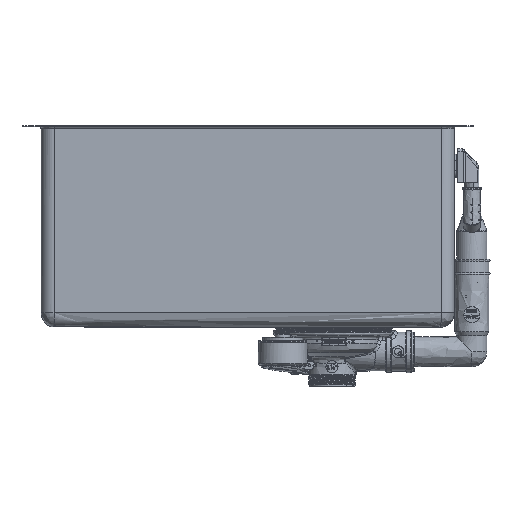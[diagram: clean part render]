
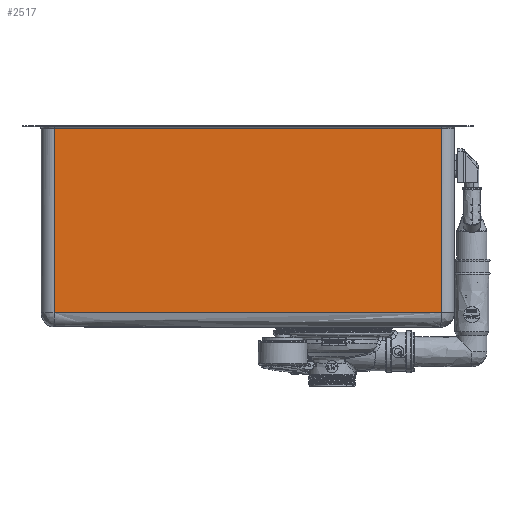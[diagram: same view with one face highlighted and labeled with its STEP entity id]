
A CAD part, left-side view. The second image highlights one B-rep face of the part: STEP entity #2517.
In plain terms, the highlighted free-form (B-spline) face has degree [1, 1] with [2, 2] control points.
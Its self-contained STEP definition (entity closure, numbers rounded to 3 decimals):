
#2517=ADVANCED_FACE('',(#10713),#10714,.T.);
#10713=FACE_OUTER_BOUND('',#40709,.T.);
#10714=B_SPLINE_SURFACE_WITH_KNOTS('',1,1,((#40710,#40711),(#40712,#40713)),.UNSPECIFIED.,.F.,.F.,.F.,(2,2),(2,2),(0.0,1.0),(0.0,1.0),.UNSPECIFIED.);
#40709=EDGE_LOOP('',(#113181,#113182,#113183,#113184));
#40710=CARTESIAN_POINT('',(-171.0,-163.0,-3.));
#40711=CARTESIAN_POINT('',(-171.0,-163.0,-186.5));
#40712=CARTESIAN_POINT('',(-171.0,223.0,-3.));
#40713=CARTESIAN_POINT('',(-171.0,223.0,-186.5));
#113181=ORIENTED_EDGE('',*,*,#135991,.F.);
#113182=ORIENTED_EDGE('',*,*,#134795,.T.);
#113183=ORIENTED_EDGE('',*,*,#134800,.F.);
#113184=ORIENTED_EDGE('',*,*,#137306,.F.);
#134795=EDGE_CURVE('',#152490,#152760,#152762,.T.);
#134800=EDGE_CURVE('',#152768,#152760,#152770,.T.);
#135991=EDGE_CURVE('',#152490,#154877,#154881,.T.);
#137306=EDGE_CURVE('',#154877,#152768,#156802,.T.);
#152490=VERTEX_POINT('',#183826);
#152760=VERTEX_POINT('',#184203);
#152762=LINE('',#184212,#184213);
#152768=VERTEX_POINT('',#184258);
#152770=LINE('',#184273,#184274);
#154877=VERTEX_POINT('',#187851);
#154881=LINE('',#187856,#187857);
#156802=LINE('',#191258,#191259);
#183826=CARTESIAN_POINT('',(-171.0,223.0,-3.));
#184203=CARTESIAN_POINT('',(-171.0,223.0,-186.5));
#184212=CARTESIAN_POINT('',(-171.0,223.0,-1.));
#184213=VECTOR('',#235373,1.0);
#184258=CARTESIAN_POINT('',(-171.0,-163.0,-186.5));
#184273=CARTESIAN_POINT('',(-171.0,-66.5,-186.5));
#184274=VECTOR('',#235374,1.0);
#187851=CARTESIAN_POINT('',(-171.0,-163.0,-3.));
#187856=CARTESIAN_POINT('',(-171.0,-66.5,-3.));
#187857=VECTOR('',#236966,1.0);
#191258=CARTESIAN_POINT('',(-171.0,-163.0,-1.));
#191259=VECTOR('',#238859,1.0);
#235373=DIRECTION('',(0.,0.,-1.0));
#235374=DIRECTION('',(0.,1.0,0.));
#236966=DIRECTION('',(0.,-1.0,0.));
#238859=DIRECTION('',(0.,0.,-1.0));
